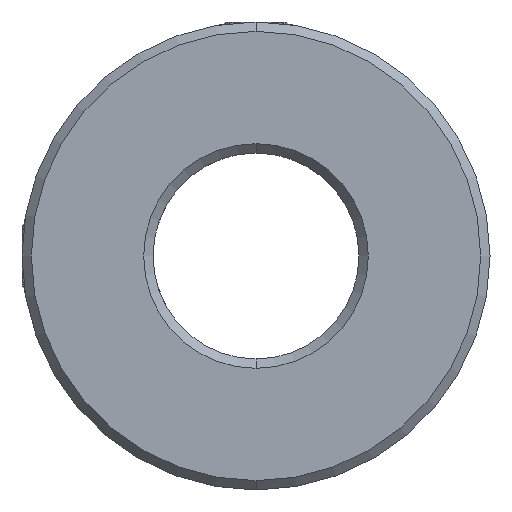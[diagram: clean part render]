
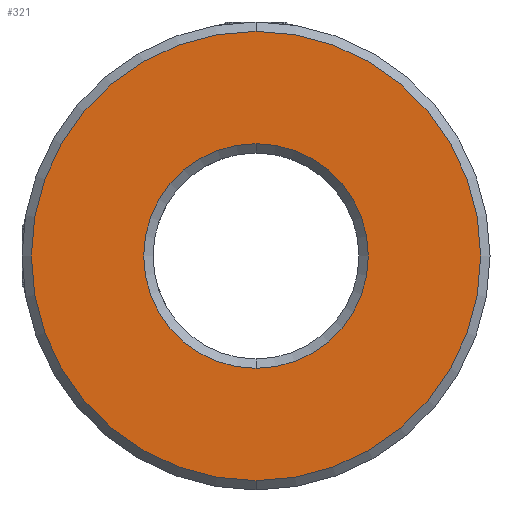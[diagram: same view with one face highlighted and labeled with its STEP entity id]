
A CAD part, front view. The second image highlights one B-rep face of the part: STEP entity #321.
In plain terms, the highlighted planar face has unit normal (0, -1, 0).
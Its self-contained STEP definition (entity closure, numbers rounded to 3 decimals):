
#26 = CIRCLE ( 'NONE', #913, 6. ) ;
#321 = ADVANCED_FACE ( 'NONE', ( #1850, #3540 ), #445, .F. ) ;
#380 = DIRECTION ( 'NONE',  ( 0., -1., 0. ) ) ;
#398 = CARTESIAN_POINT ( 'NONE',  ( -10.188, -0.277, 0.046 ) ) ;
#445 = PLANE ( 'NONE',  #2767 ) ;
#507 = EDGE_LOOP ( 'NONE', ( #2199, #878 ) ) ;
#607 = AXIS2_PLACEMENT_3D ( 'NONE', #398, #2667, #3488 ) ;
#618 = CIRCLE ( 'NONE', #2345, 6. ) ;
#638 = CARTESIAN_POINT ( 'NONE',  ( -10.188, -0.277, -5.954 ) ) ;
#659 = CARTESIAN_POINT ( 'NONE',  ( -10.188, -0.277, 12.046 ) ) ;
#790 = CIRCLE ( 'NONE', #3209, 12. ) ;
#878 = ORIENTED_EDGE ( 'NONE', *, *, #1311, .T. ) ;
#890 = DIRECTION ( 'NONE',  ( 0., 0., 1. ) ) ;
#892 = VERTEX_POINT ( 'NONE', #659 ) ;
#913 = AXIS2_PLACEMENT_3D ( 'NONE', #950, #3179, #890 ) ;
#950 = CARTESIAN_POINT ( 'NONE',  ( -10.188, -0.277, 0.046 ) ) ;
#1059 = DIRECTION ( 'NONE',  ( 0., 1., 0. ) ) ;
#1124 = VERTEX_POINT ( 'NONE', #1901 ) ;
#1133 = CIRCLE ( 'NONE', #607, 12. ) ;
#1136 = CARTESIAN_POINT ( 'NONE',  ( -10.188, -0.277, -11.954 ) ) ;
#1280 = VERTEX_POINT ( 'NONE', #638 ) ;
#1311 = EDGE_CURVE ( 'NONE', #3447, #892, #1133, .T. ) ;
#1377 = EDGE_LOOP ( 'NONE', ( #2744, #2261 ) ) ;
#1660 = EDGE_CURVE ( 'NONE', #1124, #1280, #26, .T. ) ;
#1671 = EDGE_CURVE ( 'NONE', #892, #3447, #790, .T. ) ;
#1801 = DIRECTION ( 'NONE',  ( 0., 0., 1. ) ) ;
#1850 = FACE_OUTER_BOUND ( 'NONE', #507, .T. ) ;
#1901 = CARTESIAN_POINT ( 'NONE',  ( -10.188, -0.277, 6.046 ) ) ;
#2198 = EDGE_CURVE ( 'NONE', #1280, #1124, #618, .T. ) ;
#2199 = ORIENTED_EDGE ( 'NONE', *, *, #1671, .T. ) ;
#2231 = CARTESIAN_POINT ( 'NONE',  ( -10.188, -0.277, 0.046 ) ) ;
#2261 = ORIENTED_EDGE ( 'NONE', *, *, #1660, .T. ) ;
#2327 = DIRECTION ( 'NONE',  ( 0., 0., 1. ) ) ;
#2345 = AXIS2_PLACEMENT_3D ( 'NONE', #2231, #1059, #3290 ) ;
#2565 = DIRECTION ( 'NONE',  ( 0., 1., 0. ) ) ;
#2667 = DIRECTION ( 'NONE',  ( 0., -1., 0. ) ) ;
#2744 = ORIENTED_EDGE ( 'NONE', *, *, #2198, .T. ) ;
#2767 = AXIS2_PLACEMENT_3D ( 'NONE', #3126, #2565, #2327 ) ;
#3126 = CARTESIAN_POINT ( 'NONE',  ( -10.188, -0.277, 0.046 ) ) ;
#3139 = CARTESIAN_POINT ( 'NONE',  ( -10.188, -0.277, 0.046 ) ) ;
#3179 = DIRECTION ( 'NONE',  ( 0., 1., 0. ) ) ;
#3209 = AXIS2_PLACEMENT_3D ( 'NONE', #3139, #380, #1801 ) ;
#3290 = DIRECTION ( 'NONE',  ( 0., 0., 1. ) ) ;
#3447 = VERTEX_POINT ( 'NONE', #1136 ) ;
#3488 = DIRECTION ( 'NONE',  ( 0., 0., 1. ) ) ;
#3540 = FACE_BOUND ( 'NONE', #1377, .T. ) ;
